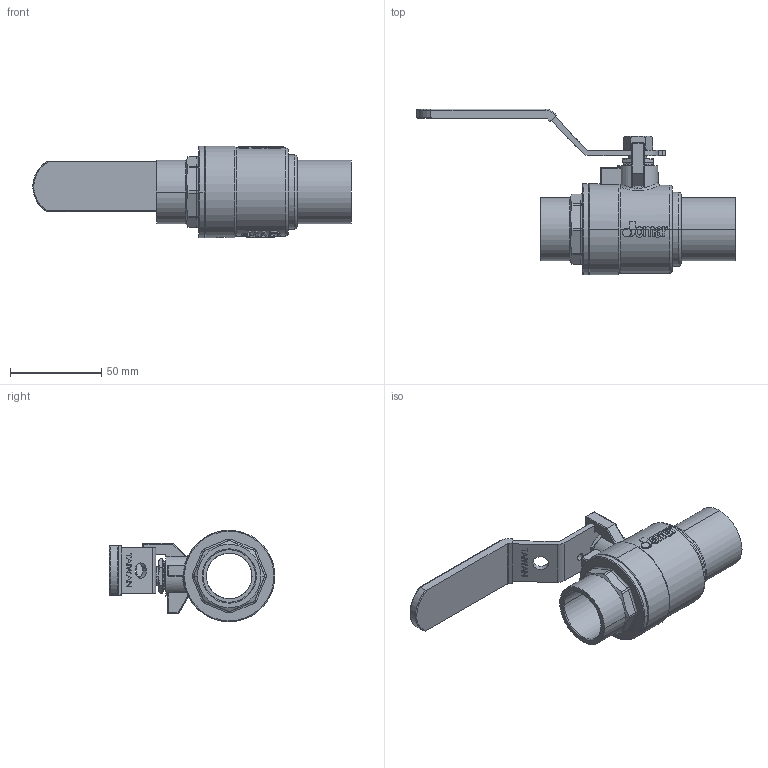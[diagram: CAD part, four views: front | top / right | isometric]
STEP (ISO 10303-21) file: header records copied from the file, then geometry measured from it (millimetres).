
FILE_DESCRIPTION (( 'STEP AP203' ), '1' );
FILE_NAME ('ABL715-無掛鎖-1''''JOMAR球閥CxC組合-無鉛-2025.STEP', '2025-06-25T06:56:05', ( '' ), ( '' ), 'SwSTEP 2.0', 'SolidWorks 2018', '' );
FILE_SCHEMA (( 'CONFIG_CONTROL_DESIGN' ));
Length unit declared in the file: millimetre
Products named in the file (13): BBL715A-1''''JOMAR²y»Ö-CxC´U»\-µL¹]µL´¡·¾; GBL205 (組裝); CBL235-20230914改; EBL205A; EBL205B; BBL715-1''''JOMAR球閥體-CxC-無鉛無插溝; CBL215-白色膠套-S-200CSSG; EBL159; DN20-CBL714-HANDLE & SLEEVE 組合(白色S膠套); TBL265(無鑽孔); ABL715-µL±¾Âê-1''''JOMAR²y»ÖCxC²Õ¦X-µL¹]-2025; NBL265; RBL264
Assembly tree (13 placements, depth 3):
  ABL715-µL±¾Âê-1''''JOMAR²y»ÖCxC²Õ¦X-µL¹]-2025
    BBL715-1''''JOMAR球閥體-CxC-無鉛無插溝
    RBL264
    EBL205A
    EBL205B
    GBL205 (組裝)
    BBL715A-1''''JOMAR²y»Ö-CxC´U»\-µL¹]µL´¡·¾
    NBL265
    DN20-CBL714-HANDLE & SLEEVE 組合(白色S膠套)
      CBL235-20230914改
      CBL215-白色膠套-S-200CSSG
    EBL159  x2
    TBL265(無鑽孔)
Bounding box: 174.2 x 90.71 x 50 mm (x, y, z)
Volume: 104854.1 mm3; surface area: 68990.2 mm2
Topology: 12 solids, 12 shells, 2168 faces, 5789 edges, 3816 vertices
Faces by surface type: plane 1156, bspline 643, cylinder 262, cone 58, torus 35, sphere 14
Entity records: 108454 total; most frequent: CARTESIAN_POINT 58162, ORIENTED_EDGE 11502, DIRECTION 7657, EDGE_CURVE 5751, VERTEX_POINT 3796, VECTOR 3611, LINE 3611, EDGE_LOOP 2359
